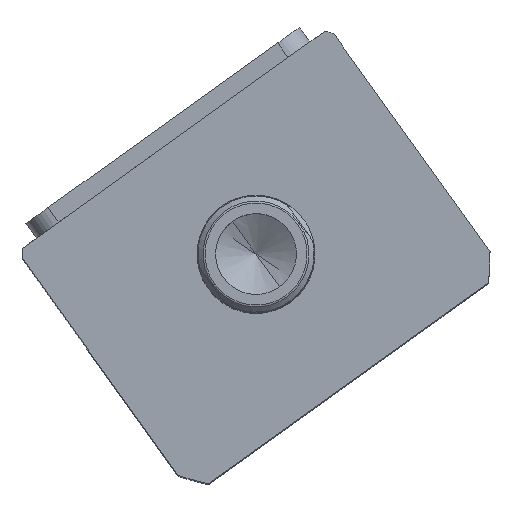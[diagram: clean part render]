
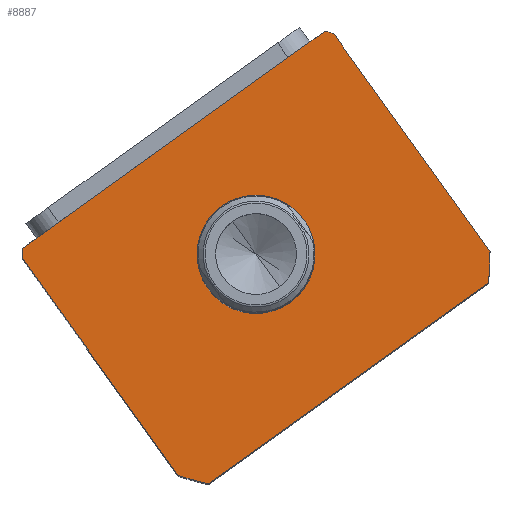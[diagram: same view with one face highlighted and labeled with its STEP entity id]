
A CAD part, top view. The second image highlights one B-rep face of the part: STEP entity #8887.
In plain terms, the highlighted planar face has unit normal (0, 0, 1) as drawn and (0, 0, -1) by its records, which use the part's own axes.
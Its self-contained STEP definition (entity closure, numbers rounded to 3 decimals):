
#187 = CARTESIAN_POINT ( 'NONE',  ( 0., -59.497, 0. ) ) ;
#373 = VERTEX_POINT ( 'NONE', #16343 ) ;
#385 = DIRECTION ( 'NONE',  ( 0., 0., 1. ) ) ;
#1207 = CIRCLE ( 'NONE', #11375, 69.5 ) ;
#1213 = CARTESIAN_POINT ( 'NONE',  ( -55.374, -17.497, 0. ) ) ;
#1318 = DIRECTION ( 'NONE',  ( 0., 1., 0. ) ) ;
#1336 = EDGE_CURVE ( 'NONE', #5743, #15949, #10495, .T. ) ;
#1655 = DIRECTION ( 'NONE',  ( 1., 0., 0. ) ) ;
#1951 = VERTEX_POINT ( 'NONE', #14285 ) ;
#2310 = EDGE_LOOP ( 'NONE', ( #8756, #9682 ) ) ;
#2439 = FACE_OUTER_BOUND ( 'NONE', #11659, .T. ) ;
#2749 = CARTESIAN_POINT ( 'NONE',  ( -57., -99.262, 0. ) ) ;
#2948 = VERTEX_POINT ( 'NONE', #15429 ) ;
#3559 = EDGE_CURVE ( 'NONE', #8938, #1951, #1207, .T. ) ;
#3589 = AXIS2_PLACEMENT_3D ( 'NONE', #4083, #14215, #5537 ) ;
#3963 = VERTEX_POINT ( 'NONE', #10640 ) ;
#3975 = CIRCLE ( 'NONE', #10614, 69.5 ) ;
#4083 = CARTESIAN_POINT ( 'NONE',  ( 0., -59.497, 0. ) ) ;
#4509 = CARTESIAN_POINT ( 'NONE',  ( 55.374, -17.497, 0. ) ) ;
#4682 = AXIS2_PLACEMENT_3D ( 'NONE', #187, #10328, #1655 ) ;
#4755 = CARTESIAN_POINT ( 'NONE',  ( -57., -17.497, 0. ) ) ;
#4869 = ORIENTED_EDGE ( 'NONE', *, *, #8492, .F. ) ;
#5019 = DIRECTION ( 'NONE',  ( 0., 0., 1. ) ) ;
#5289 = VECTOR ( 'NONE', #14881, 1000. ) ;
#5470 = VERTEX_POINT ( 'NONE', #9939 ) ;
#5476 = CARTESIAN_POINT ( 'NONE',  ( -17.5, -59.497, 0. ) ) ;
#5528 = CARTESIAN_POINT ( 'NONE',  ( 0., -59.497, 0. ) ) ;
#5537 = DIRECTION ( 'NONE',  ( 1., 0., 0. ) ) ;
#5601 = CARTESIAN_POINT ( 'NONE',  ( 57., -99.262, 0. ) ) ;
#5743 = VERTEX_POINT ( 'NONE', #4509 ) ;
#5813 = FACE_BOUND ( 'NONE', #2310, .T. ) ;
#6039 = VECTOR ( 'NONE', #1318, 1000. ) ;
#6986 = DIRECTION ( 'NONE',  ( 1., 0., 0. ) ) ;
#7332 = DIRECTION ( 'NONE',  ( 0., 0., 1. ) ) ;
#7766 = DIRECTION ( 'NONE',  ( 1., 0., 0. ) ) ;
#7844 = CIRCLE ( 'NONE', #16190, 17.5 ) ;
#8093 = LINE ( 'NONE', #16432, #15358 ) ;
#8492 = EDGE_CURVE ( 'NONE', #1951, #3963, #8093, .T. ) ;
#8496 = DIRECTION ( 'NONE',  ( 0., 0., 1. ) ) ;
#8756 = ORIENTED_EDGE ( 'NONE', *, *, #9234, .T. ) ;
#8802 = CARTESIAN_POINT ( 'NONE',  ( -57., -17.497, 0. ) ) ;
#8885 = VERTEX_POINT ( 'NONE', #5601 ) ;
#8887 = ADVANCED_FACE ( 'NONE', ( #5813, #2439 ), #17170, .F. ) ;
#8930 = CIRCLE ( 'NONE', #12398, 69.5 ) ;
#8938 = VERTEX_POINT ( 'NONE', #2749 ) ;
#9057 = CARTESIAN_POINT ( 'NONE',  ( 0., -59.497, 0. ) ) ;
#9234 = EDGE_CURVE ( 'NONE', #5470, #15875, #15568, .T. ) ;
#9540 = EDGE_CURVE ( 'NONE', #8885, #373, #13762, .T. ) ;
#9682 = ORIENTED_EDGE ( 'NONE', *, *, #11702, .T. ) ;
#9939 = CARTESIAN_POINT ( 'NONE',  ( 17.5, -59.497, 0. ) ) ;
#10047 = ORIENTED_EDGE ( 'NONE', *, *, #15365, .F. ) ;
#10328 = DIRECTION ( 'NONE',  ( 0., 0., 1. ) ) ;
#10495 = LINE ( 'NONE', #8802, #13722 ) ;
#10514 = DIRECTION ( 'NONE',  ( 1., 0., 0. ) ) ;
#10592 = ORIENTED_EDGE ( 'NONE', *, *, #18538, .F. ) ;
#10614 = AXIS2_PLACEMENT_3D ( 'NONE', #9057, #385, #10514 ) ;
#10640 = CARTESIAN_POINT ( 'NONE',  ( 51.198, -106.497, 0. ) ) ;
#10772 = DIRECTION ( 'NONE',  ( -1., 0., 0. ) ) ;
#11056 = EDGE_CURVE ( 'NONE', #3963, #8885, #17335, .T. ) ;
#11375 = AXIS2_PLACEMENT_3D ( 'NONE', #5528, #15654, #6986 ) ;
#11659 = EDGE_LOOP ( 'NONE', ( #10592, #15368, #12420, #4869, #13002, #10047, #14850, #15290 ) ) ;
#11702 = EDGE_CURVE ( 'NONE', #15875, #5470, #7844, .T. ) ;
#12398 = AXIS2_PLACEMENT_3D ( 'NONE', #13692, #5019, #15148 ) ;
#12420 = ORIENTED_EDGE ( 'NONE', *, *, #11056, .F. ) ;
#12748 = EDGE_CURVE ( 'NONE', #15949, #2948, #3975, .T. ) ;
#13002 = ORIENTED_EDGE ( 'NONE', *, *, #3559, .F. ) ;
#13692 = CARTESIAN_POINT ( 'NONE',  ( 0., -59.497, 0. ) ) ;
#13722 = VECTOR ( 'NONE', #10772, 1000. ) ;
#13762 = LINE ( 'NONE', #17090, #6039 ) ;
#14215 = DIRECTION ( 'NONE',  ( 0., 0., 1. ) ) ;
#14285 = CARTESIAN_POINT ( 'NONE',  ( -51.198, -106.497, 0. ) ) ;
#14739 = AXIS2_PLACEMENT_3D ( 'NONE', #17047, #8496, #18600 ) ;
#14850 = ORIENTED_EDGE ( 'NONE', *, *, #12748, .F. ) ;
#14881 = DIRECTION ( 'NONE',  ( 0., -1., 0. ) ) ;
#15148 = DIRECTION ( 'NONE',  ( 1., 0., 0. ) ) ;
#15290 = ORIENTED_EDGE ( 'NONE', *, *, #1336, .F. ) ;
#15358 = VECTOR ( 'NONE', #7766, 1000. ) ;
#15365 = EDGE_CURVE ( 'NONE', #2948, #8938, #16382, .T. ) ;
#15368 = ORIENTED_EDGE ( 'NONE', *, *, #9540, .F. ) ;
#15429 = CARTESIAN_POINT ( 'NONE',  ( -57., -19.732, 0. ) ) ;
#15568 = CIRCLE ( 'NONE', #4682, 17.5 ) ;
#15654 = DIRECTION ( 'NONE',  ( 0., 0., 1. ) ) ;
#15875 = VERTEX_POINT ( 'NONE', #5476 ) ;
#15949 = VERTEX_POINT ( 'NONE', #1213 ) ;
#16004 = CARTESIAN_POINT ( 'NONE',  ( 0., -59.497, 0. ) ) ;
#16190 = AXIS2_PLACEMENT_3D ( 'NONE', #16004, #7332, #17456 ) ;
#16343 = CARTESIAN_POINT ( 'NONE',  ( 57., -19.732, 0. ) ) ;
#16382 = LINE ( 'NONE', #4755, #5289 ) ;
#16432 = CARTESIAN_POINT ( 'NONE',  ( -57., -106.497, 0. ) ) ;
#17047 = CARTESIAN_POINT ( 'NONE',  ( 0., 0., 0. ) ) ;
#17090 = CARTESIAN_POINT ( 'NONE',  ( 57., -17.497, 0. ) ) ;
#17170 = PLANE ( 'NONE',  #14739 ) ;
#17335 = CIRCLE ( 'NONE', #3589, 69.5 ) ;
#17456 = DIRECTION ( 'NONE',  ( 1., 0., 0. ) ) ;
#18538 = EDGE_CURVE ( 'NONE', #373, #5743, #8930, .T. ) ;
#18600 = DIRECTION ( 'NONE',  ( 1., 0., 0. ) ) ;
